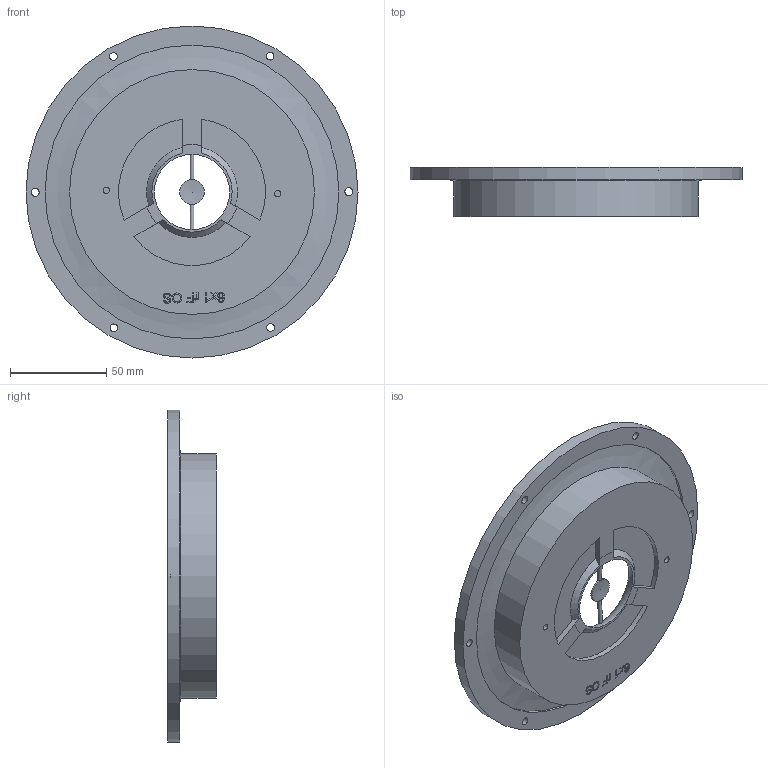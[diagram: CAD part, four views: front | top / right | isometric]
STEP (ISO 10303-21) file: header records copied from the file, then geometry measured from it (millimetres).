
FILE_DESCRIPTION(/* description */ (''),/* implementation_level */ '2;1');
FILE_NAME(/* name */ '6x1 rF ps.step',/* time_stamp */ '2023-05-22T11:53:09-06:00',/* author */ (''),/* organization */ (''),/* preprocessor_version */ 'ST-DEVELOPER v19.2',/* originating_system */ 'Autodesk Translation Framework v12.4.0.73',/* authorisation */ '');
FILE_SCHEMA (('AUTOMOTIVE_DESIGN { 1 0 10303 214 3 1 1 }'));
Length unit declared in the file: inch
Products named in the file (3): 6x1 rF OS SS; modified 6 v2; Component2
Assembly tree (2 placements, depth 3):
  6x1 rF OS SS
    modified 6 v2
      Component2
Bounding box: 172.21 x 25.4 x 172.21 mm (x, y, z)
Volume: 254041.4 mm3; surface area: 59447.4 mm2
Topology: 2 solids, 2 shells, 201 faces, 555 edges, 370 vertices
Faces by surface type: bspline 95, plane 67, cylinder 27, torus 6, cone 6
Full cylindrical faces by diameter (mm): 2.032 x2, 3.302 x2, 4.064 x6, 8.382 x6, 12.7 x1, 127 x1, 152.4 x1, 172.212 x1
Entity records: 7554 total; most frequent: CARTESIAN_POINT 3009, ORIENTED_EDGE 1108, DIRECTION 613, EDGE_CURVE 554, VERTEX_POINT 370, LINE 255, VECTOR 255, EDGE_LOOP 234
